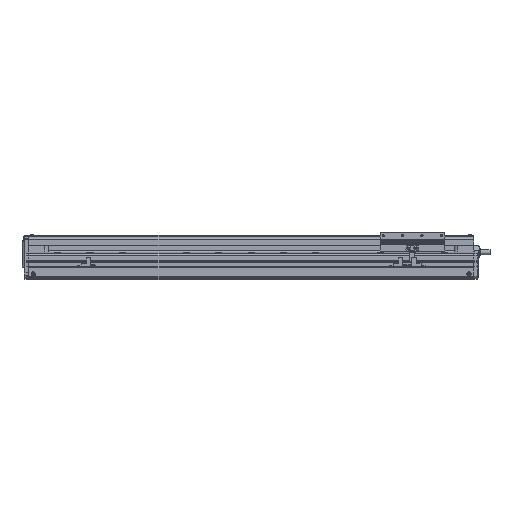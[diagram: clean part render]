
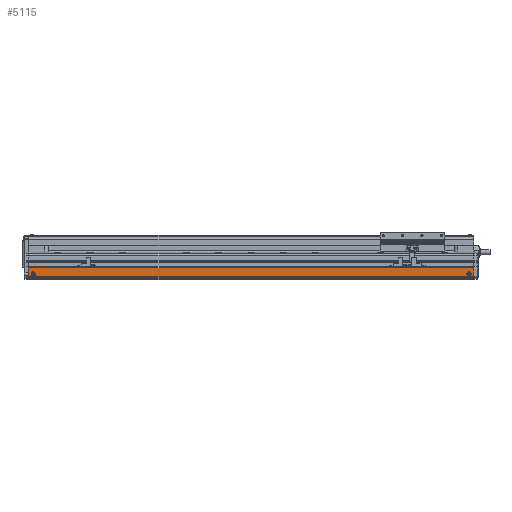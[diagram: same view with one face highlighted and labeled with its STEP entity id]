
A CAD part, left-side view. The second image highlights one B-rep face of the part: STEP entity #5115.
In plain terms, the highlighted planar face has unit normal (-1, 0, 0).
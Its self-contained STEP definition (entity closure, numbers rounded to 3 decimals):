
#5115=ADVANCED_FACE('',(#11268,#11269,#11270),#11271,.F.);
#11268=FACE_BOUND('',#20091,.T.);
#11269=FACE_BOUND('',#20092,.T.);
#11270=FACE_OUTER_BOUND('',#20093,.T.);
#11271=PLANE('',#20094);
#20091=EDGE_LOOP('',(#34454,#34455));
#20092=EDGE_LOOP('',(#34456,#34457));
#20093=EDGE_LOOP('',(#34458,#34459,#34460,#34461));
#20094=AXIS2_PLACEMENT_3D('',#34462,#34463,#34464);
#34454=ORIENTED_EDGE('',*,*,#50405,.F.);
#34455=ORIENTED_EDGE('',*,*,#50406,.F.);
#34456=ORIENTED_EDGE('',*,*,#50407,.F.);
#34457=ORIENTED_EDGE('',*,*,#50408,.F.);
#34458=ORIENTED_EDGE('',*,*,#50409,.F.);
#34459=ORIENTED_EDGE('',*,*,#50410,.F.);
#34460=ORIENTED_EDGE('',*,*,#50411,.F.);
#34461=ORIENTED_EDGE('',*,*,#50101,.T.);
#34462=CARTESIAN_POINT('',(-63.5,587.222,-30.942));
#34463=DIRECTION('',(1.,0.,0.));
#34464=DIRECTION('',(0.,0.,1.));
#50101=EDGE_CURVE('',#61450,#61447,#61451,.T.);
#50405=EDGE_CURVE('',#61897,#61898,#61899,.T.);
#50406=EDGE_CURVE('',#61898,#61897,#61900,.T.);
#50407=EDGE_CURVE('',#61901,#61902,#61903,.T.);
#50408=EDGE_CURVE('',#61902,#61901,#61904,.T.);
#50409=EDGE_CURVE('',#61905,#61447,#61906,.T.);
#50410=EDGE_CURVE('',#61907,#61905,#61908,.T.);
#50411=EDGE_CURVE('',#61450,#61907,#61909,.T.);
#61447=VERTEX_POINT('',#77843);
#61450=VERTEX_POINT('',#77846);
#61451=LINE('',#77847,#77848);
#61897=VERTEX_POINT('',#78523);
#61898=VERTEX_POINT('',#78524);
#61899=CIRCLE('',#78525,3.25);
#61900=CIRCLE('',#78526,3.25);
#61901=VERTEX_POINT('',#78527);
#61902=VERTEX_POINT('',#78528);
#61903=CIRCLE('',#78529,3.25);
#61904=CIRCLE('',#78530,3.25);
#61905=VERTEX_POINT('',#78531);
#61906=LINE('',#78532,#78533);
#61907=VERTEX_POINT('',#78534);
#61908=LINE('',#78535,#78536);
#61909=LINE('',#78537,#78538);
#77843=CARTESIAN_POINT('',(-63.5,-102.778,-37.864));
#77846=CARTESIAN_POINT('',(-63.5,587.222,-37.864));
#77847=CARTESIAN_POINT('',(-63.5,587.222,-37.864));
#77848=VECTOR('',#90244,10.0);
#78523=CARTESIAN_POINT('',(-63.5,-99.028,-34.));
#78524=CARTESIAN_POINT('',(-63.5,-92.528,-34.));
#78525=AXIS2_PLACEMENT_3D('',#90581,#90582,#90583);
#78526=AXIS2_PLACEMENT_3D('',#90584,#90585,#90586);
#78527=CARTESIAN_POINT('',(-63.5,583.472,-34.));
#78528=CARTESIAN_POINT('',(-63.5,576.972,-34.));
#78529=AXIS2_PLACEMENT_3D('',#90587,#90588,#90589);
#78530=AXIS2_PLACEMENT_3D('',#90590,#90591,#90592);
#78531=CARTESIAN_POINT('',(-63.5,-102.778,-24.02));
#78532=CARTESIAN_POINT('',(-63.5,-102.778,-37.864));
#78533=VECTOR('',#90593,10.0);
#78534=CARTESIAN_POINT('',(-63.5,587.222,-24.02));
#78535=CARTESIAN_POINT('',(-63.5,587.222,-24.02));
#78536=VECTOR('',#90594,10.0);
#78537=CARTESIAN_POINT('',(-63.5,587.222,-37.864));
#78538=VECTOR('',#90595,10.0);
#90244=DIRECTION('',(0.,-1.0,0.));
#90581=CARTESIAN_POINT('',(-63.5,-95.778,-34.));
#90582=DIRECTION('',(-1.,0.,0.));
#90583=DIRECTION('',(0.,-1.0,0.));
#90584=CARTESIAN_POINT('',(-63.5,-95.778,-34.));
#90585=DIRECTION('',(-1.,0.,0.));
#90586=DIRECTION('',(0.,-1.0,0.));
#90587=CARTESIAN_POINT('',(-63.5,580.222,-34.));
#90588=DIRECTION('',(-1.,0.,0.));
#90589=DIRECTION('',(0.,1.0,0.));
#90590=CARTESIAN_POINT('',(-63.5,580.222,-34.));
#90591=DIRECTION('',(-1.,0.,0.));
#90592=DIRECTION('',(0.,1.0,0.));
#90593=DIRECTION('',(0.,0.,-1.));
#90594=DIRECTION('',(0.,-1.0,0.));
#90595=DIRECTION('',(0.,0.,1.));
